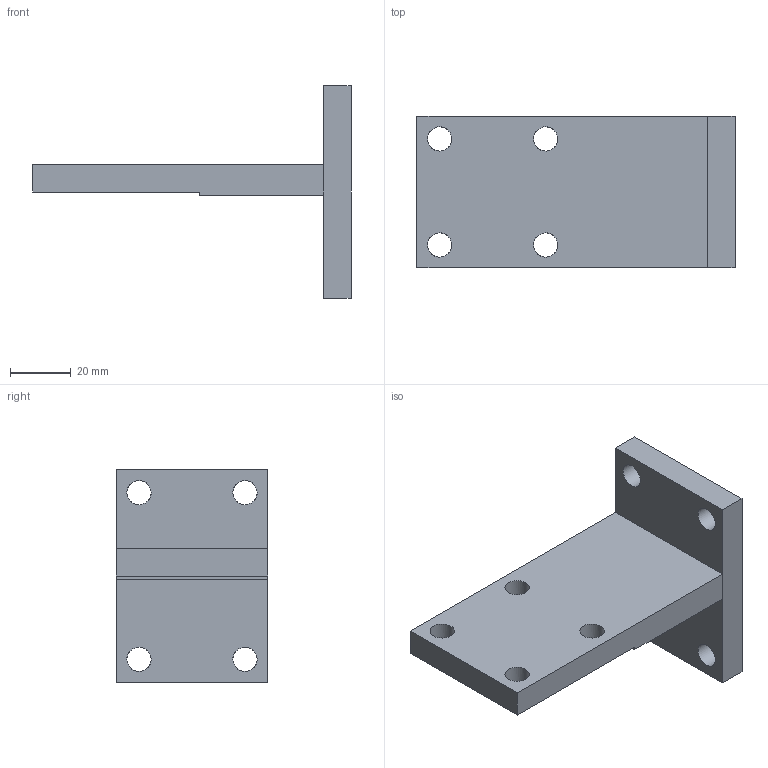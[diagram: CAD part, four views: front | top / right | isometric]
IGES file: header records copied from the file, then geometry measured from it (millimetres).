
Global section: file name: 03.02; native system: Autodesk Inventor 2014; preprocessor: unknown; author: Stefano; date: 20150331.100124; units: millimetre
Bounding box: 105 x 50 x 70 mm (x, y, z)
Volume: 73130.2 mm3; surface area: 22576.1 mm2
Topology: 2 solids, 2 shells, 22 faces, 62 edges, 44 vertices
Faces by surface type: bspline 22
